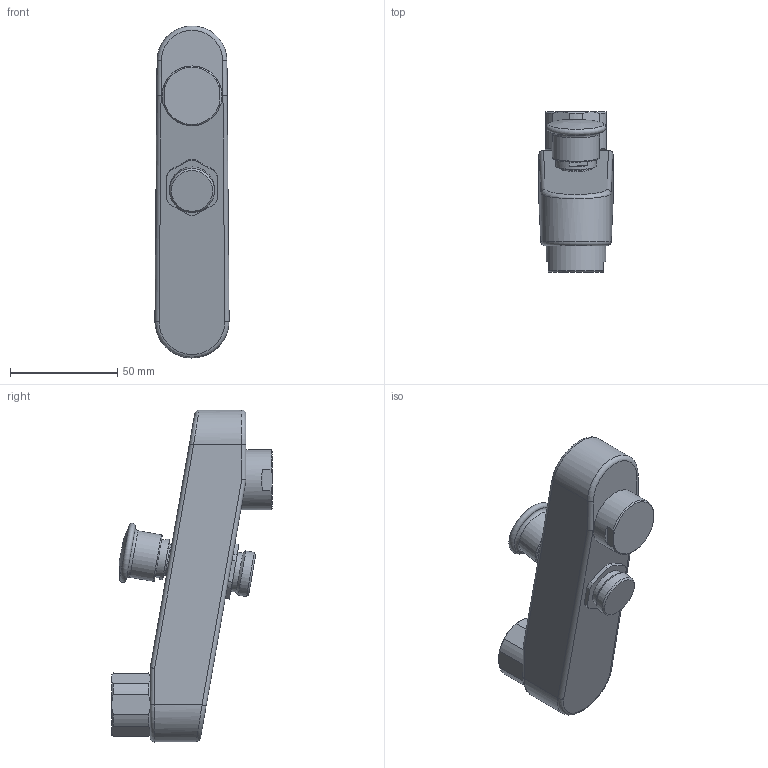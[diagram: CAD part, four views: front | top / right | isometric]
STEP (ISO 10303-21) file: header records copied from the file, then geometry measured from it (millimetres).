
FILE_DESCRIPTION (( 'STEP AP203' ), '1' );
FILE_NAME ('221200.STEP', '2017-03-09T05:45:25', ( '' ), ( '' ), 'SwSTEP 2.0', 'SolidWorks 2016', '' );
FILE_SCHEMA (( 'CONFIG_CONTROL_DESIGN' ));
Length unit declared in the file: millimetre
Products named in the file (1): 221200
Bounding box: 34.6 x 74.94 x 154.88 mm (x, y, z)
Volume: 171283.7 mm3; surface area: 24831.2 mm2
Topology: 1 solids, 1 shells, 91 faces, 220 edges, 137 vertices
Faces by surface type: plane 34, cylinder 32, cone 16, torus 6, bspline 2, sphere 1
Full cylindrical faces by diameter (mm): 14.3 x1, 18.5 x1, 19 x1, 20.955 x1, 22 x1, 27.9 x1
Entity records: 2847 total; most frequent: CARTESIAN_POINT 786, ORIENTED_EDGE 410, DIRECTION 405, EDGE_CURVE 205, AXIS2_PLACEMENT_3D 160, VERTEX_POINT 134, EDGE_LOOP 109, FACE_OUTER_BOUND 101
